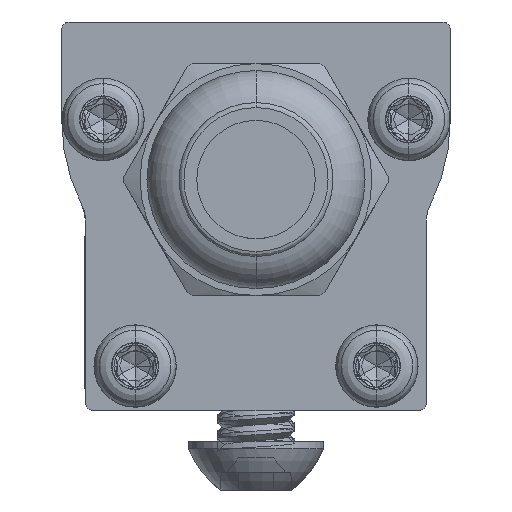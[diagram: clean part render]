
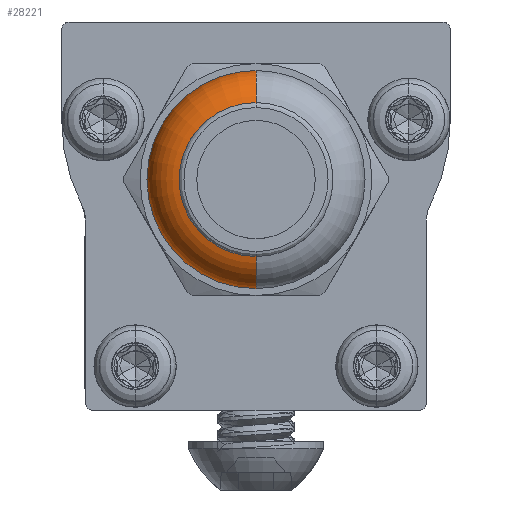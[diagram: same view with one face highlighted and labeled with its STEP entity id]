
A CAD part, left-side view. The second image highlights one B-rep face of the part: STEP entity #28221.
In plain terms, the highlighted toroidal (fillet/blend) face has major radius 3.518 mm and minor radius 2.095 mm.
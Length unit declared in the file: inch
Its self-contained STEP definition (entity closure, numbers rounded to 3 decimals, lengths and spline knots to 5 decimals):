
#2481 = CARTESIAN_POINT ( 'NONE',  ( -0.31437, 0., -0.13852 ) ) ;
#2623 = CIRCLE ( 'NONE', #26944, 0.0825 ) ;
#3278 = ORIENTED_EDGE ( 'NONE', *, *, #18677, .F. ) ;
#3381 = AXIS2_PLACEMENT_3D ( 'NONE', #27218, #8689, #20547 ) ;
#4979 = ORIENTED_EDGE ( 'NONE', *, *, #29486, .T. ) ;
#5915 = CARTESIAN_POINT ( 'NONE',  ( -0.31437, 0., -0.22102 ) ) ;
#6186 = VERTEX_POINT ( 'NONE', #5915 ) ;
#6569 = CARTESIAN_POINT ( 'NONE',  ( -0.31437, 0., 0.22102 ) ) ;
#6776 = EDGE_CURVE ( 'NONE', #22250, #12505, #10956, .T. ) ;
#7091 = FACE_OUTER_BOUND ( 'NONE', #21442, .T. ) ;
#8265 = EDGE_CURVE ( 'NONE', #6186, #29817, #22022, .T. ) ;
#8689 = DIRECTION ( 'NONE',  ( -1., 0., 0. ) ) ;
#9243 = CARTESIAN_POINT ( 'NONE',  ( -0.395, 0., -0.156 ) ) ;
#10410 = ORIENTED_EDGE ( 'NONE', *, *, #6776, .F. ) ;
#10683 = CARTESIAN_POINT ( 'NONE',  ( -0.31437, 0., 0. ) ) ;
#10956 = CIRCLE ( 'NONE', #20786, 0.156 ) ;
#12505 = VERTEX_POINT ( 'NONE', #9243 ) ;
#13142 = DIRECTION ( 'NONE',  ( 0., 0., 1. ) ) ;
#16787 = DIRECTION ( 'NONE',  ( 0., 0., 1. ) ) ;
#17707 = DIRECTION ( 'NONE',  ( 1., 0., 0. ) ) ;
#18677 = EDGE_CURVE ( 'NONE', #29817, #22250, #2623, .T. ) ;
#19335 = CARTESIAN_POINT ( 'NONE',  ( -0.395, 0., 0.156 ) ) ;
#20101 = ORIENTED_EDGE ( 'NONE', *, *, #8265, .F. ) ;
#20106 = DIRECTION ( 'NONE',  ( 0., -1., 0. ) ) ;
#20135 = DIRECTION ( 'NONE',  ( 0., 0., 1. ) ) ;
#20514 = TOROIDAL_SURFACE ( 'NONE', #3381, 0.13852, 0.0825 ) ;
#20547 = DIRECTION ( 'NONE',  ( 0., 0., 1. ) ) ;
#20786 = AXIS2_PLACEMENT_3D ( 'NONE', #29329, #27449, #13142 ) ;
#21442 = EDGE_LOOP ( 'NONE', ( #20101, #4979, #10410, #3278 ) ) ;
#22022 = CIRCLE ( 'NONE', #28009, 0.22102 ) ;
#22250 = VERTEX_POINT ( 'NONE', #19335 ) ;
#23914 = DIRECTION ( 'NONE',  ( 0., 1., 0. ) ) ;
#26944 = AXIS2_PLACEMENT_3D ( 'NONE', #27097, #20106, #29821 ) ;
#27097 = CARTESIAN_POINT ( 'NONE',  ( -0.31437, 0., 0.13852 ) ) ;
#27177 = AXIS2_PLACEMENT_3D ( 'NONE', #2481, #23914, #16787 ) ;
#27218 = CARTESIAN_POINT ( 'NONE',  ( -0.31437, 0., 0. ) ) ;
#27449 = DIRECTION ( 'NONE',  ( -1., 0., 0. ) ) ;
#28009 = AXIS2_PLACEMENT_3D ( 'NONE', #10683, #17707, #20135 ) ;
#28221 = ADVANCED_FACE ( 'NONE', ( #7091 ), #20514, .T. ) ;
#29329 = CARTESIAN_POINT ( 'NONE',  ( -0.395, 0., 0. ) ) ;
#29411 = CIRCLE ( 'NONE', #27177, 0.0825 ) ;
#29486 = EDGE_CURVE ( 'NONE', #6186, #12505, #29411, .T. ) ;
#29817 = VERTEX_POINT ( 'NONE', #6569 ) ;
#29821 = DIRECTION ( 'NONE',  ( 0., 0., -1. ) ) ;
